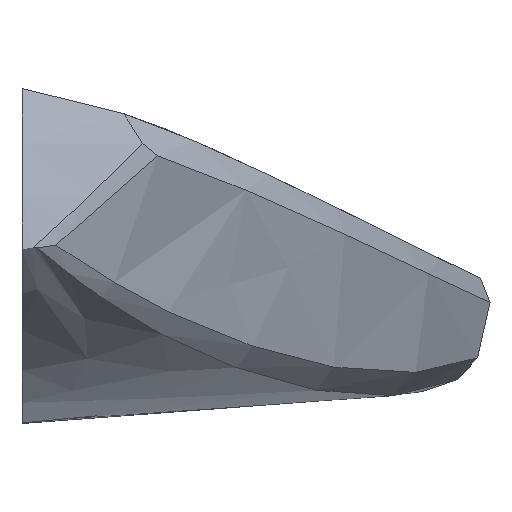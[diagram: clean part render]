
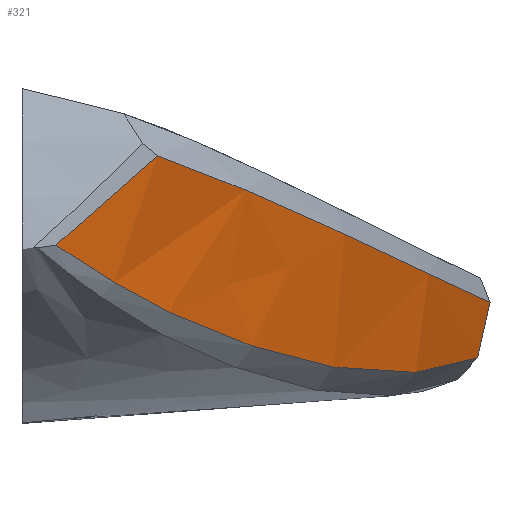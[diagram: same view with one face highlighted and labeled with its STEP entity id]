
A CAD part, left-side view. The second image highlights one B-rep face of the part: STEP entity #321.
In plain terms, the highlighted free-form (B-spline) face has degree [3, 3] with [11, 5] control points.
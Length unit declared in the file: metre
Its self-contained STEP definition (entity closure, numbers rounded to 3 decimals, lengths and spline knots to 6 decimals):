
#80=ORIENTED_EDGE('',*,*,#160,.T.);
#81=ORIENTED_EDGE('',*,*,#161,.T.);
#82=ORIENTED_EDGE('',*,*,#162,.T.);
#83=ORIENTED_EDGE('',*,*,#163,.T.);
#160=EDGE_CURVE('',#202,#203,#236,.F.);
#161=EDGE_CURVE('',#203,#204,#237,.F.);
#162=EDGE_CURVE('',#204,#205,#238,.F.);
#163=EDGE_CURVE('',#205,#202,#239,.F.);
#202=VERTEX_POINT('',#914);
#203=VERTEX_POINT('',#915);
#204=VERTEX_POINT('',#920);
#205=VERTEX_POINT('',#929);
#236=B_SPLINE_CURVE_WITH_KNOTS('',3,(#903,#904,#905,#906,#907,#908,#909,
#910,#911,#912,#913),.UNSPECIFIED.,.F.,.F.,(4,1,1,1,1,1,1,1,4),(0.,0.25,
0.375,0.5,0.625,0.75,0.875,0.9375,1.),.UNSPECIFIED.);
#237=B_SPLINE_CURVE_WITH_KNOTS('',3,(#916,#917,#918,#919),.UNSPECIFIED.,
 .F.,.F.,(4,4),(0.,1.),.UNSPECIFIED.);
#238=B_SPLINE_CURVE_WITH_KNOTS('',3,(#921,#922,#923,#924,#925,#926,#927,
#928),.UNSPECIFIED.,.F.,.F.,(4,1,1,1,1,4),(0.,0.125,0.25,0.5,0.75,1.),
 .UNSPECIFIED.);
#239=B_SPLINE_CURVE_WITH_KNOTS('',3,(#930,#931,#932,#933,#934),
 .UNSPECIFIED.,.F.,.F.,(4,1,4),(0.,0.5,1.),.UNSPECIFIED.);
#265=EDGE_LOOP('',(#80,#81,#82,#83));
#285=FACE_BOUND('',#265,.T.);
#304=B_SPLINE_SURFACE_WITH_KNOTS('',3,3,((#848,#849,#850,#851,#852),(#853,
#854,#855,#856,#857),(#858,#859,#860,#861,#862),(#863,#864,#865,#866,#867),
(#868,#869,#870,#871,#872),(#873,#874,#875,#876,#877),(#878,#879,#880,#881,
#882),(#883,#884,#885,#886,#887),(#888,#889,#890,#891,#892),(#893,#894,
#895,#896,#897),(#898,#899,#900,#901,#902)),.UNSPECIFIED.,.F.,.F.,.F.,(4,
1,1,1,1,1,1,1,4),(4,1,4),(0.013722,0.020513,0.023908,
0.027303,0.030699,0.033528,0.035791,
0.037489,0.040884),(-0.02039,-0.013803,
-0.007217),.UNSPECIFIED.);
#321=ADVANCED_FACE('',(#285),#304,.T.);
#848=CARTESIAN_POINT('',(-0.015623,-0.003003,0.067531));
#849=CARTESIAN_POINT('',(-0.015464,-0.002674,0.06522));
#850=CARTESIAN_POINT('',(-0.015168,-0.002062,0.060562));
#851=CARTESIAN_POINT('',(-0.014999,-0.001571,0.055859));
#852=CARTESIAN_POINT('',(-0.014943,-0.001352,0.053504));
#853=CARTESIAN_POINT('',(-0.018267,-0.002354,0.067283));
#854=CARTESIAN_POINT('',(-0.018079,-0.002014,0.064977));
#855=CARTESIAN_POINT('',(-0.017724,-0.001382,0.060327));
#856=CARTESIAN_POINT('',(-0.017546,-0.000865,0.055628));
#857=CARTESIAN_POINT('',(-0.017489,-0.000639,0.053272));
#858=CARTESIAN_POINT('',(-0.022198,-0.001126,0.066798));
#859=CARTESIAN_POINT('',(-0.021964,-0.000765,0.064511));
#860=CARTESIAN_POINT('',(-0.021571,-0.000055,0.059869));
#861=CARTESIAN_POINT('',(-0.021364,0.000494,0.055168));
#862=CARTESIAN_POINT('',(-0.021298,0.000728,0.052795));
#863=CARTESIAN_POINT('',(-0.027511,0.001251,0.066021));
#864=CARTESIAN_POINT('',(-0.027185,0.001644,0.063716));
#865=CARTESIAN_POINT('',(-0.026648,0.002388,0.059103));
#866=CARTESIAN_POINT('',(-0.026423,0.002957,0.05433));
#867=CARTESIAN_POINT('',(-0.026358,0.00318,0.051961));
#868=CARTESIAN_POINT('',(-0.031477,0.003377,0.065325));
#869=CARTESIAN_POINT('',(-0.031083,0.003801,0.063093));
#870=CARTESIAN_POINT('',(-0.030442,0.004632,0.058375));
#871=CARTESIAN_POINT('',(-0.030183,0.005164,0.053608));
#872=CARTESIAN_POINT('',(-0.030098,0.005377,0.05123));
#873=CARTESIAN_POINT('',(-0.035164,0.005829,0.064583));
#874=CARTESIAN_POINT('',(-0.034696,0.006311,0.062328));
#875=CARTESIAN_POINT('',(-0.034007,0.007152,0.057579));
#876=CARTESIAN_POINT('',(-0.033672,0.007663,0.052851));
#877=CARTESIAN_POINT('',(-0.033551,0.007874,0.050466));
#878=CARTESIAN_POINT('',(-0.038323,0.008431,0.063826));
#879=CARTESIAN_POINT('',(-0.03778,0.008923,0.061557));
#880=CARTESIAN_POINT('',(-0.036985,0.009743,0.05682));
#881=CARTESIAN_POINT('',(-0.036592,0.010261,0.052092));
#882=CARTESIAN_POINT('',(-0.036449,0.010467,0.049708));
#883=CARTESIAN_POINT('',(-0.040673,0.010764,0.063179));
#884=CARTESIAN_POINT('',(-0.040077,0.011277,0.060869));
#885=CARTESIAN_POINT('',(-0.039221,0.012094,0.056161));
#886=CARTESIAN_POINT('',(-0.038787,0.012614,0.051422));
#887=CARTESIAN_POINT('',(-0.038635,0.012812,0.049047));
#888=CARTESIAN_POINT('',(-0.042879,0.013462,0.062398));
#889=CARTESIAN_POINT('',(-0.042325,0.014042,0.060054));
#890=CARTESIAN_POINT('',(-0.041469,0.014878,0.055391));
#891=CARTESIAN_POINT('',(-0.041018,0.015397,0.050649));
#892=CARTESIAN_POINT('',(-0.040867,0.015586,0.048289));
#893=CARTESIAN_POINT('',(-0.043958,0.015492,0.061674));
#894=CARTESIAN_POINT('',(-0.043579,0.016124,0.059421));
#895=CARTESIAN_POINT('',(-0.042834,0.017024,0.054779));
#896=CARTESIAN_POINT('',(-0.042416,0.017538,0.05008));
#897=CARTESIAN_POINT('',(-0.042272,0.01772,0.047733));
#898=CARTESIAN_POINT('',(-0.04462,0.017056,0.061169));
#899=CARTESIAN_POINT('',(-0.044327,0.017669,0.058969));
#900=CARTESIAN_POINT('',(-0.043677,0.018577,0.05436));
#901=CARTESIAN_POINT('',(-0.043287,0.019074,0.049687));
#902=CARTESIAN_POINT('',(-0.043154,0.019248,0.04735));
#903=CARTESIAN_POINT('',(-0.016207,-0.000999,0.05355));
#904=CARTESIAN_POINT('',(-0.018956,-0.000146,0.053158));
#905=CARTESIAN_POINT('',(-0.023037,0.001435,0.052812));
#906=CARTESIAN_POINT('',(-0.028188,0.004054,0.052921));
#907=CARTESIAN_POINT('',(-0.031913,0.006309,0.0533));
#908=CARTESIAN_POINT('',(-0.035448,0.008856,0.054009));
#909=CARTESIAN_POINT('',(-0.038678,0.011612,0.055064));
#910=CARTESIAN_POINT('',(-0.041111,0.013985,0.056263));
#911=CARTESIAN_POINT('',(-0.04291,0.015952,0.057461));
#912=CARTESIAN_POINT('',(-0.043748,0.016974,0.058155));
#913=CARTESIAN_POINT('',(-0.044144,0.017511,0.058495));
#914=CARTESIAN_POINT('',(-0.044144,0.017511,0.058495));
#915=CARTESIAN_POINT('',(-0.016206,-0.000999,0.053549));
#916=CARTESIAN_POINT('',(-0.015195,-0.001545,0.055988));
#917=CARTESIAN_POINT('',(-0.015532,-0.001364,0.055174));
#918=CARTESIAN_POINT('',(-0.015869,-0.001182,0.054361));
#919=CARTESIAN_POINT('',(-0.016206,-0.000999,0.053548));
#920=CARTESIAN_POINT('',(-0.015195,-0.001545,0.055989));
#921=CARTESIAN_POINT('',(-0.042422,0.013044,0.06242));
#922=CARTESIAN_POINT('',(-0.041482,0.0121,0.062099));
#923=CARTESIAN_POINT('',(-0.039518,0.010418,0.061441));
#924=CARTESIAN_POINT('',(-0.035374,0.007348,0.06014));
#925=CARTESIAN_POINT('',(-0.029864,0.004005,0.058594));
#926=CARTESIAN_POINT('',(-0.022764,0.000741,0.057039));
#927=CARTESIAN_POINT('',(-0.01775,-0.000888,0.056283));
#928=CARTESIAN_POINT('',(-0.015195,-0.001545,0.055989));
#929=CARTESIAN_POINT('',(-0.042421,0.013046,0.062423));
#930=CARTESIAN_POINT('',(-0.044144,0.017511,0.058495));
#931=CARTESIAN_POINT('',(-0.043888,0.016762,0.059149));
#932=CARTESIAN_POINT('',(-0.043325,0.015237,0.06042));
#933=CARTESIAN_POINT('',(-0.042728,0.013765,0.061748));
#934=CARTESIAN_POINT('',(-0.04242,0.013045,0.062424));
